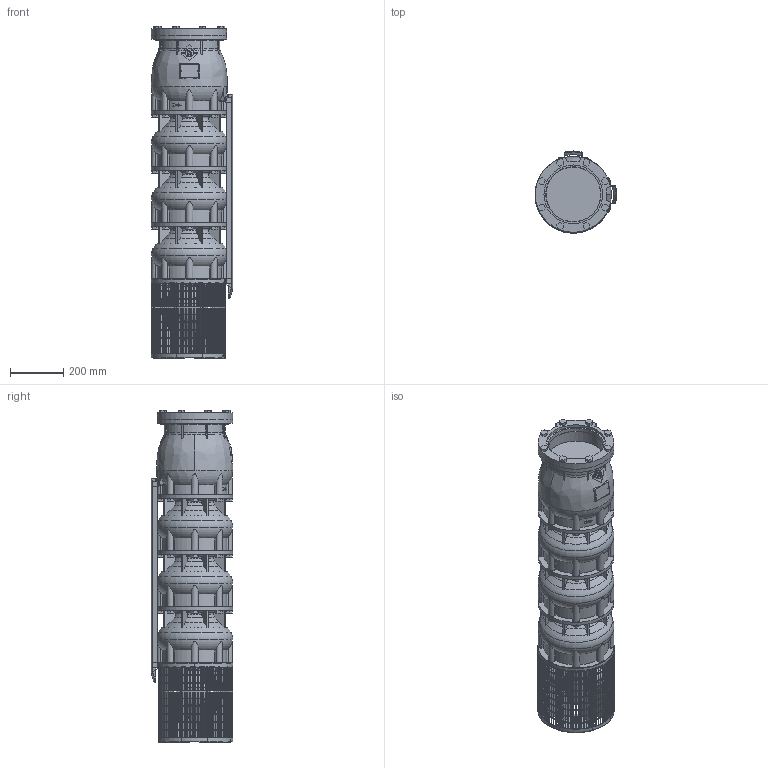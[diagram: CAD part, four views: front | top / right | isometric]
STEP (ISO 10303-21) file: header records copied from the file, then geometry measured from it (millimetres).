
FILE_DESCRIPTION(/* description */ ('-'),/* implementation_level */ '2;1');
FILE_NAME(/* name */ 'VSI344-3-1B_WF_M8-50_SLE',/* time_stamp */ '2026-01-21T12:06:24+01:00',/* author */ ('Simonelli M.'),/* organization */ ('Franklin Electric Srl'),/* preprocessor_version */ 'ST-DEVELOPER v18.102',/* originating_system */ 'Solid Edge',/* authorisation */ 'Unknown');
FILE_SCHEMA (('AUTOMOTIVE_DESIGN {1 0 10303 214 3 1 1}'));
Products named in the file (12): VSI344-3-1B_WF_M8-50_SLE; VSI344-454_testata; VSI344-454_supporto; VSI344-454_filtro_A; VSI344-454_filtro_B; VSI344-454_terminale_top_copricavo_basso; VSI344-454_terminale_bottom_copricavo_basso; LOW 334-3; VSI344_diffusore; M5X8_UNI7687; VSI184-254_giunto_10×8; VSI344-454_flangia_testata
Assembly tree (27 placements, depth 2):
  VSI344-3-1B_WF_M8-50_SLE
    VSI344-454_testata
    VSI344-454_supporto
    VSI344-454_filtro_A
    VSI344-454_filtro_B
    VSI344-454_terminale_top_copricavo_basso  x2
    VSI344-454_terminale_bottom_copricavo_basso  x2
    LOW 334-3  x2
    VSI344_diffusore  x3
    M5X8_UNI7687  x12
    VSI184-254_giunto_10×8
    VSI344-454_flangia_testata
Bounding box: 306.94 x 306.94 x 1245 mm (x, y, z)
Volume: 48421266.9 mm3; surface area: 2946710.4 mm2
Topology: 92 solids, 92 shells, 4392 faces, 12358 edges, 8208 vertices
Faces by surface type: plane 3510, cylinder 546, torus 220, cone 89, bspline 15, sphere 12
Full cylindrical faces by diameter (mm): 5 x12, 16 x8, 35 x1, 65 x1, 69 x1, 150 x1, 207 x1, 220.5 x1, 285 x3
Entity records: 127632 total; most frequent: CARTESIAN_POINT 28635, ORIENTED_EDGE 20792, DIRECTION 19902, EDGE_CURVE 10396, VERTEX_POINT 6933, AXIS2_PLACEMENT_3D 6722, LINE 6458, VECTOR 6458
